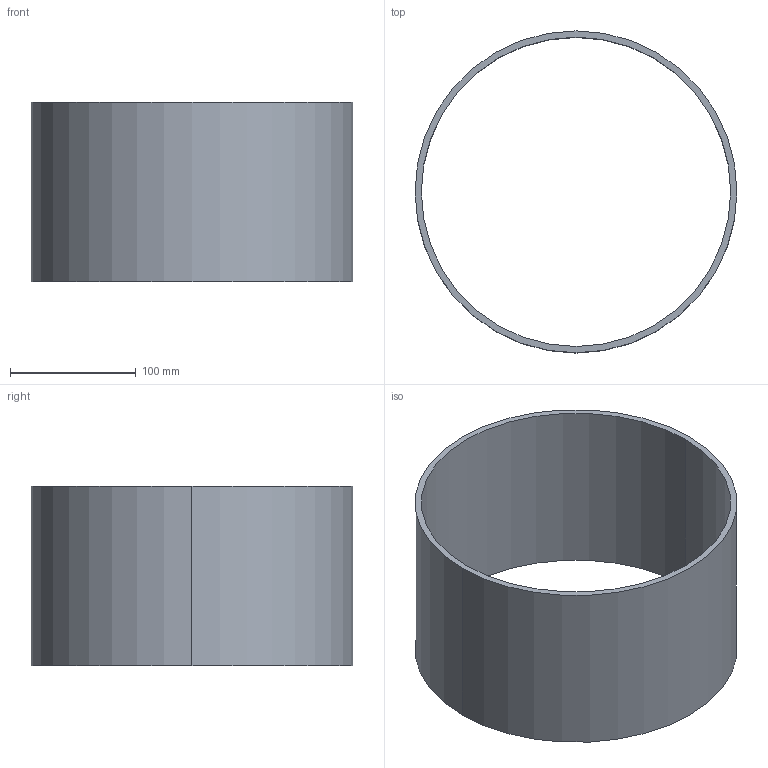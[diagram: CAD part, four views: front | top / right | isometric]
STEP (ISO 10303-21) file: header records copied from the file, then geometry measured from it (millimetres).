
FILE_DESCRIPTION(('CATIA V5 STEP Exchange'),'2;1');
FILE_NAME('C:\_Andres\UNIVERSIDAD\IQS\ASIGNATURAS\DAO\EXF\EXF-15161c\1original\Vila_Vaquer_Ej07-tabla_v28.stp','2016-03-04T21:16:36+00:00',('none'),('none'),'CATIA Version 5 Release 20 SP 1 (IN-10)','CATIA V5 STEP AP203','none');
FILE_SCHEMA(('CONFIG_CONTROL_DESIGN'));
Length unit declared in the file: millimetre
Products named in the file (1): Vila_Vaquer_Ej07-tabla_v28
Bounding box: 256 x 256 x 143 mm (x, y, z)
Volume: 563805.9 mm3; surface area: 233407.8 mm2
Topology: 1 solids, 1 shells, 6 faces, 13 edges, 10 vertices
Faces by surface type: cylinder 4, plane 2
Entity records: 208 total; most frequent: CARTESIAN_POINT 29, ORIENTED_EDGE 24, DIRECTION 23, AXIS2_PLACEMENT_3D 14, EDGE_CURVE 12, CIRCLE 8, EDGE_LOOP 8, VERTEX_POINT 8
